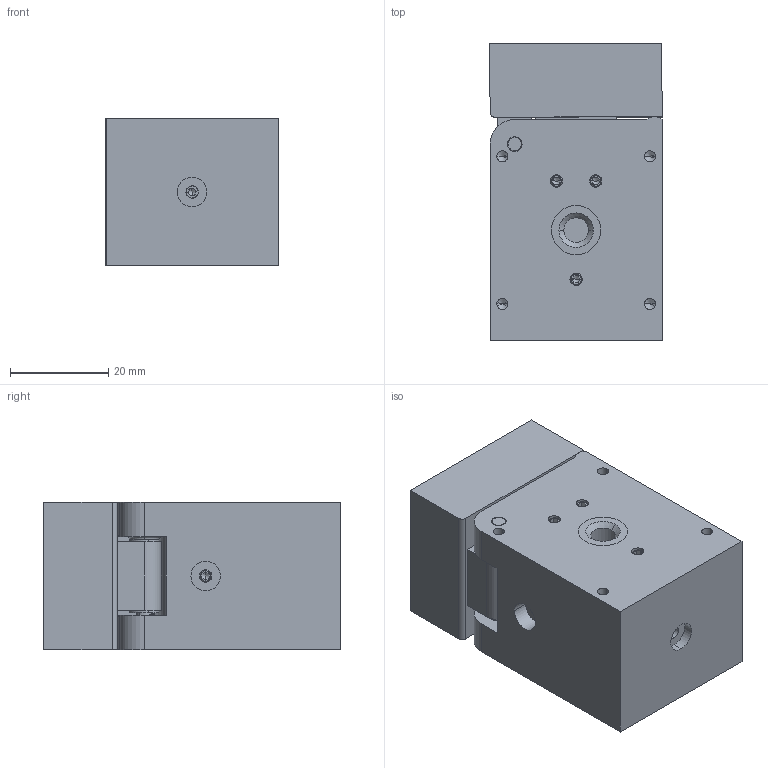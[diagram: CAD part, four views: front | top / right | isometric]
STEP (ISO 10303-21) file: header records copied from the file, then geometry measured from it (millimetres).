
FILE_DESCRIPTION (( 'STEP AP214' ), '1' );
FILE_NAME ('2023-12 - SQUARE CUVETTE ASSY.STEP', '2024-04-05T07:49:06', ( '' ), ( '' ), 'SwSTEP 2.0', 'SolidWorks 2024', '' );
FILE_SCHEMA (( 'AUTOMOTIVE_DESIGN' ));
Length unit declared in the file: millimetre
Products named in the file (10): ISO 2338 - 3 m6 x 30 - St_ISO 2338 - 3 m6 x 30 - St; 2023-13 - SQUARE CUVETTE HOLDER; wr4-5.step; 9406431; 2023-12 - SQUARE CUVETTE ASSY; pwf3.stp; 2023-14 - CUVETTE APERTURE; 220300003.stp; rsm3-5.2.stp; 2023-15 - CUVETTE HOLDER LID
Assembly tree (18 placements, depth 2):
  2023-12 - SQUARE CUVETTE ASSY
    9406431
    2023-13 - SQUARE CUVETTE HOLDER
    220300003.stp  x4
    rsm3-5.2.stp  x6
    2023-14 - CUVETTE APERTURE
    2023-15 - CUVETTE HOLDER LID
    ISO 2338 - 3 m6 x 30 - St_ISO 2338 - 3 m6 x 30 - St
    wr4-5.step
    pwf3.stp  x2
Bounding box: 35.05 x 60.57 x 30 mm (x, y, z)
Volume: 53621.7 mm3; surface area: 22357.6 mm2
Topology: 22 solids, 22 shells, 398 faces, 923 edges, 562 vertices
Faces by surface type: plane 182, cylinder 106, cone 82, sphere 20, bspline 6, torus 2
Entity records: 8141 total; most frequent: CARTESIAN_POINT 2833, DIRECTION 1099, ORIENTED_EDGE 958, EDGE_CURVE 479, AXIS2_PLACEMENT_3D 421, VERTEX_POINT 311, EDGE_LOOP 266, VECTOR 257
